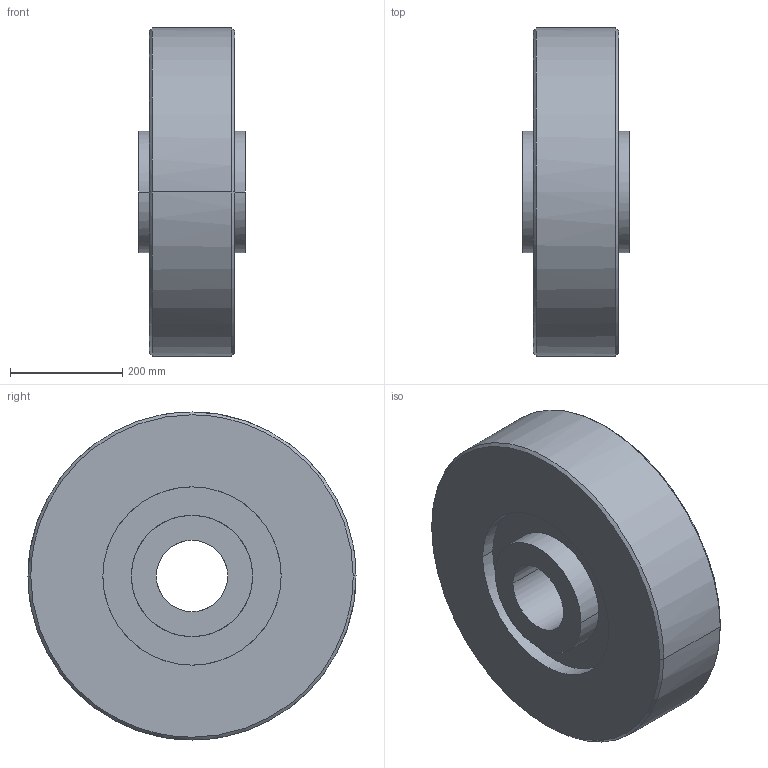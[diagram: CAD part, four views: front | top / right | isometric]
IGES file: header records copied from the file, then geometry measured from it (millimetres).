
Global section: native system: Kubotek KeyCreator; preprocessor: KCM Version 1.1.1442.0; author: KeyCreator User; organization: Self; date: 20170713.014121; units: inch
Bounding box: 190.5 x 584.2 x 584.2 mm (x, y, z)
Surface area: 966766.8 mm2 (no closed solid volume)
Topology: 0 solids, 0 shells, 22 faces, 144 edges, 144 vertices
Faces by surface type: bspline 22
